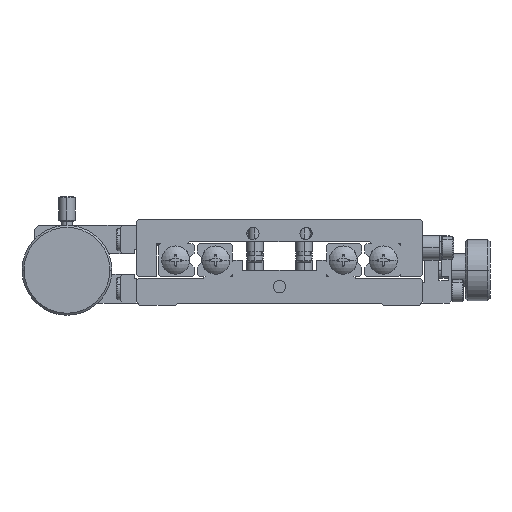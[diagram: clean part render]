
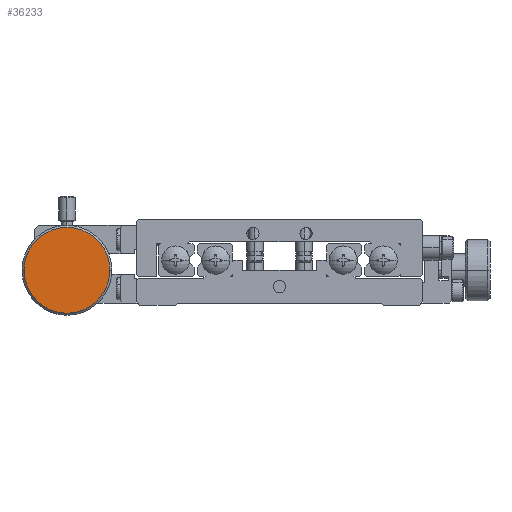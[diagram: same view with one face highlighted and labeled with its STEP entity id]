
A CAD part, front view. The second image highlights one B-rep face of the part: STEP entity #36233.
In plain terms, the highlighted planar face has unit normal (0, -1, 0).
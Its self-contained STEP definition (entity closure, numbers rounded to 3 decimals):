
#6979 = PLANE ( 'NONE',  #6980 ) ;
#6980 = AXIS2_PLACEMENT_3D ( 'NONE', #7042, #7041, #7040 ) ;
#6985 = FACE_OUTER_BOUND ( 'NONE', #36234, .T. ) ;
#7035 = DIRECTION ( 'NONE',  ( 1., 0., 0. ) ) ;
#7036 = DIRECTION ( 'NONE',  ( 0., 1., 0. ) ) ;
#7037 = CARTESIAN_POINT ( 'NONE',  ( -52., -76., 8.5 ) ) ;
#7038 = AXIS2_PLACEMENT_3D ( 'NONE', #7037, #7036, #7035 ) ;
#7039 = CIRCLE ( 'NONE', #7038, 10.5 ) ;
#7040 = DIRECTION ( 'NONE',  ( 1., 0., 0. ) ) ;
#7041 = DIRECTION ( 'NONE',  ( 0., 1., 0. ) ) ;
#7042 = CARTESIAN_POINT ( 'NONE',  ( -52., -76., 8.5 ) ) ;
#25989 = CARTESIAN_POINT ( 'NONE',  ( -62.5, -76., 8.5 ) ) ;
#25994 = DIRECTION ( 'NONE',  ( 1., 0., 0. ) ) ;
#25995 = DIRECTION ( 'NONE',  ( 0., 1., 0. ) ) ;
#25996 = CARTESIAN_POINT ( 'NONE',  ( -52., -76., 8.5 ) ) ;
#25997 = AXIS2_PLACEMENT_3D ( 'NONE', #25996, #25995, #25994 ) ;
#26002 = CIRCLE ( 'NONE', #25997, 10.5 ) ;
#26009 = CARTESIAN_POINT ( 'NONE',  ( -41.5, -76., 8.5 ) ) ;
#36233 = ADVANCED_FACE ( 'NONE', ( #6985 ), #6979, .F. ) ;
#36234 = EDGE_LOOP ( 'NONE', ( #36235, #36236 ) ) ;
#36235 = ORIENTED_EDGE ( 'NONE', *, *, #53784, .F. ) ;
#36236 = ORIENTED_EDGE ( 'NONE', *, *, #36237, .F. ) ;
#36237 = EDGE_CURVE ( 'NONE', #53803, #53570, #7039, .T. ) ;
#53570 = VERTEX_POINT ( 'NONE', #26009 ) ;
#53784 = EDGE_CURVE ( 'NONE', #53570, #53803, #26002, .T. ) ;
#53803 = VERTEX_POINT ( 'NONE', #25989 ) ;
